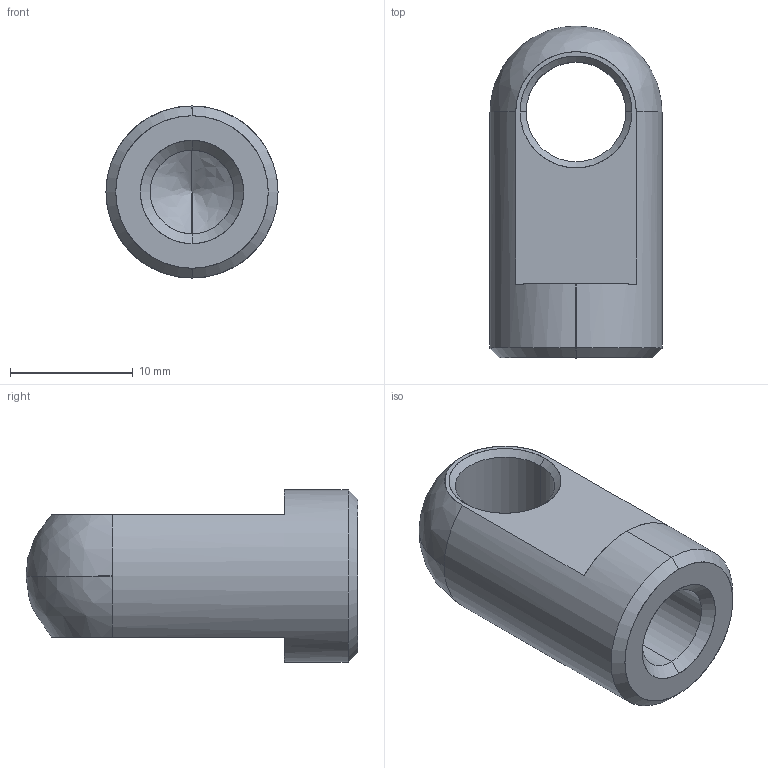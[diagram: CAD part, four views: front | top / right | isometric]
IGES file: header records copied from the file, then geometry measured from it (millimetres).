
Start section: SolidWorks IGES file using analytic representation for surfaces
Bounding box: 14 x 27 x 14 mm (x, y, z)
Surface area: 1691 mm2 (no closed solid volume)
Topology: 0 solids, 0 shells, 23 faces, 266 edges, 264 vertices
Faces by surface type: revolution 18, bspline 5
